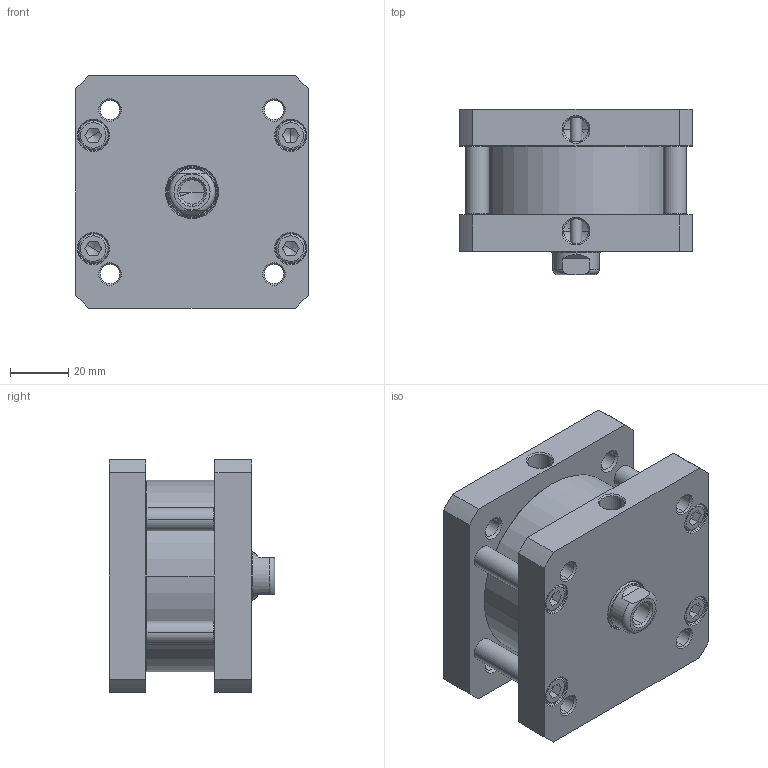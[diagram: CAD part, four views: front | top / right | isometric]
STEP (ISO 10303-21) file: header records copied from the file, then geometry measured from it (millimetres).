
FILE_DESCRIPTION(('STEP AP203'),'1');
FILE_NAME('84M63G000 - course 0mm.stp','2022-05-30T09:12:47',(' '),(' '),'Spatial InterOp 3D',' ',' ');
FILE_SCHEMA(('CONFIG_CONTROL_DESIGN'));
Length unit declared in the file: metre
Products named in the file (6): 84M63G000 - course 0mm; TP; STELO-000; TA; TIRANTE-000; CORPO-000
Assembly tree (8 placements, depth 2):
  84M63G000 - course 0mm
    TP
    STELO-000
    TA
    TIRANTE-000  x4
    CORPO-000
Bounding box: 80 x 57 x 80 mm (x, y, z)
Volume: 166261.8 mm3; surface area: 56729.7 mm2
Topology: 8 solids, 17 shells, 403 faces, 950 edges, 579 vertices
Faces by surface type: cone 160, cylinder 116, plane 103, torus 24
Entity records: 11622 total; most frequent: CARTESIAN_POINT 2765, DIRECTION 1910, ORIENTED_EDGE 1688, EDGE_CURVE 844, AXIS2_PLACEMENT_3D 772, VERTEX_POINT 531, EDGE_LOOP 425, CIRCLE 398
